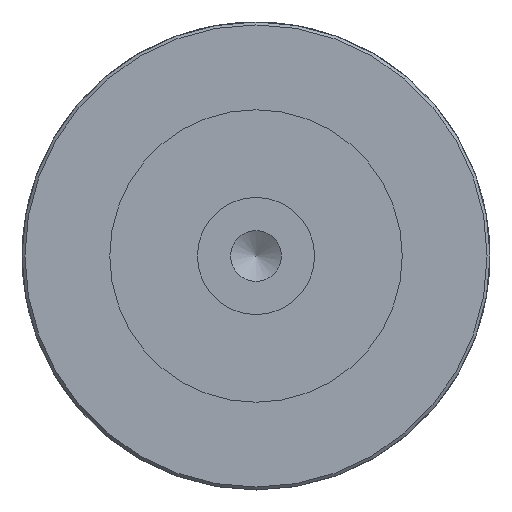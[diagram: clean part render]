
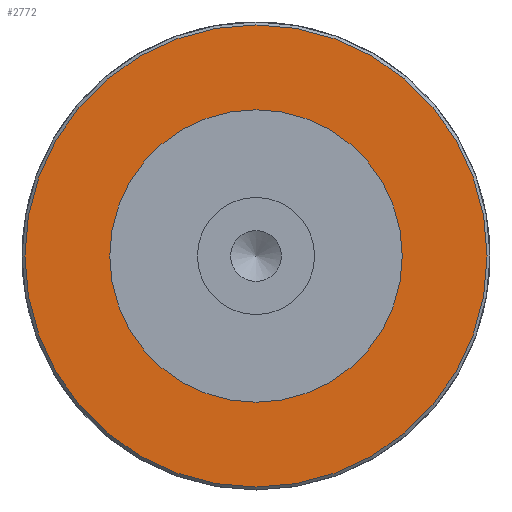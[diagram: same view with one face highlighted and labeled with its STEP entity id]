
A CAD part, left-side view. The second image highlights one B-rep face of the part: STEP entity #2772.
In plain terms, the highlighted planar face has unit normal (-1, 0, 0).
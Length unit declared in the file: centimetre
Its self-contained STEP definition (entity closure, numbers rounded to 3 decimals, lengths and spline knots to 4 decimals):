
#917=PLANE('',#2944);
#977=CIRCLE('',#2943,5.);
#978=CIRCLE('',#2945,7.9);
#1065=VERTEX_POINT('',#3670);
#1066=VERTEX_POINT('',#3673);
#1368=EDGE_CURVE('',#1065,#1065,#977,.T.);
#1369=EDGE_CURVE('',#1066,#1066,#978,.T.);
#1709=ORIENTED_EDGE('',*,*,#1368,.T.);
#1710=ORIENTED_EDGE('',*,*,#1369,.F.);
#2345=EDGE_LOOP('',(#1709));
#2346=EDGE_LOOP('',(#1710));
#2561=FACE_BOUND('',#2345,.T.);
#2562=FACE_BOUND('',#2346,.T.);
#2772=ADVANCED_FACE('',(#2561,#2562),#917,.T.);
#2943=AXIS2_PLACEMENT_3D('',#3669,#3163,#3164);
#2944=AXIS2_PLACEMENT_3D('',#3671,#3165,$);
#2945=AXIS2_PLACEMENT_3D('',#3672,#3166,#3167);
#3163=DIRECTION('',(1.,0.,0.));
#3164=DIRECTION('',(0.,5.,0.));
#3165=DIRECTION('',(-1.,0.,0.));
#3166=DIRECTION('',(1.,0.,0.));
#3167=DIRECTION('',(0.,0.,7.9));
#3669=CARTESIAN_POINT('',(0.,0.,0.));
#3670=CARTESIAN_POINT('',(0.,-5.,0.));
#3671=CARTESIAN_POINT('',(0.,0.,-4.));
#3672=CARTESIAN_POINT('',(0.,0.,0.));
#3673=CARTESIAN_POINT('',(0.,0.,-7.9));
